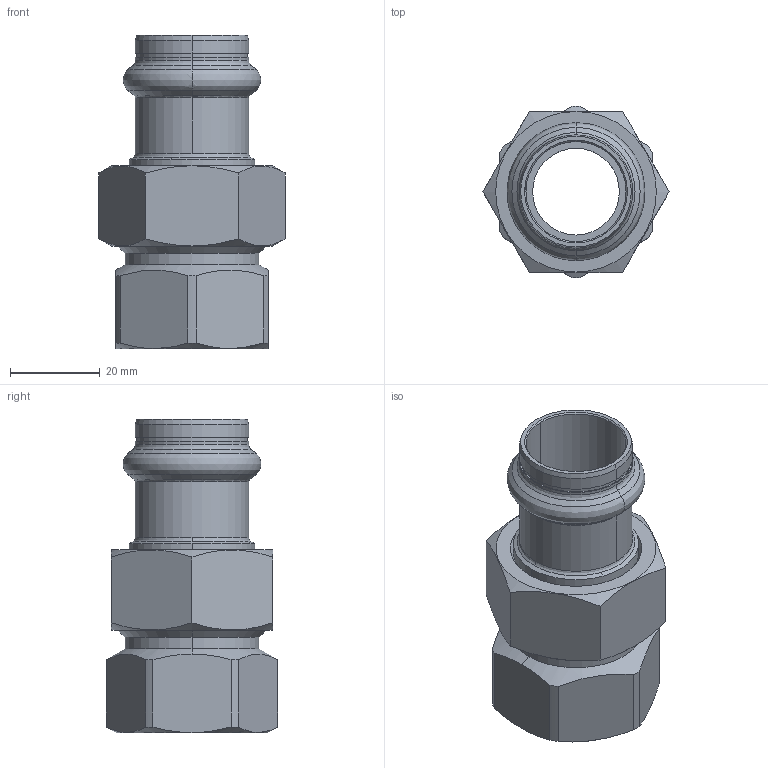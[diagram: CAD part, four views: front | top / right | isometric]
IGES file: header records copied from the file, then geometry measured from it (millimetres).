
Start section: Elysium IGES Interface
Global section: file name: C:\3d modellen sudo\C-Pr VP\SP8330GV\8330GVW2234.igs; native system: CoCreate Modeling 17.00A  17-Jun-2010; preprocessor: CoCreate IGES_3D V2.2; author: Unknown; organization: Unknown; date: 20130305.131744; units: millimetre
Bounding box: 41.57 x 38.19 x 70 mm (x, y, z)
Volume: 30402.3 mm3; surface area: 17999.9 mm2
Topology: 3 solids, 3 shells, 116 faces, 276 edges, 166 vertices
Faces by surface type: bspline 116
